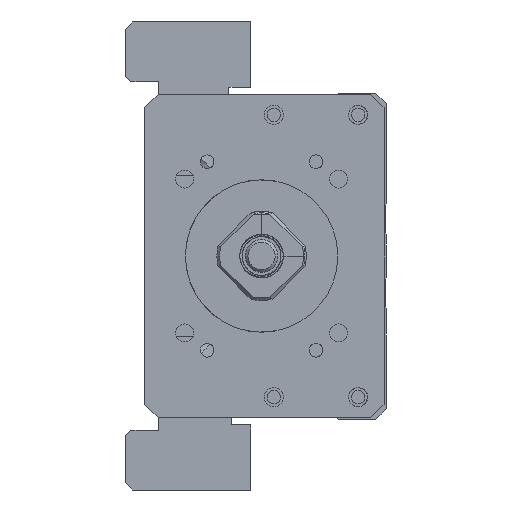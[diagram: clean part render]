
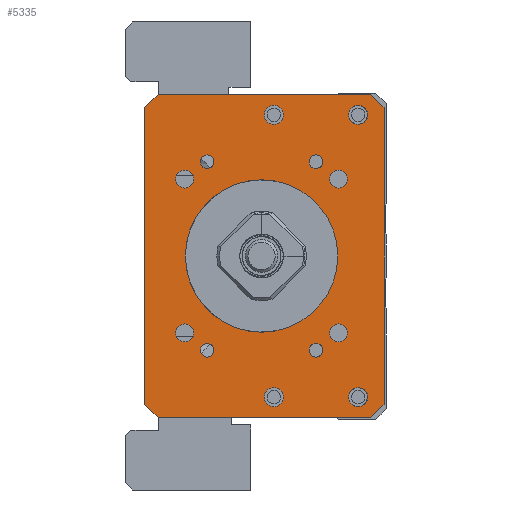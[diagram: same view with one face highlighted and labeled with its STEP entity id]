
A CAD part, left-side view. The second image highlights one B-rep face of the part: STEP entity #5335.
In plain terms, the highlighted planar face has unit normal (-1, 0, 0).
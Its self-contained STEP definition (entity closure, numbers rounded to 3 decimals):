
#4359=FACE_BOUND('',#7005,.T.);
#4360=FACE_BOUND('',#7006,.T.);
#4361=FACE_BOUND('',#7007,.T.);
#4362=FACE_BOUND('',#7008,.T.);
#4363=FACE_BOUND('',#7009,.T.);
#4364=FACE_BOUND('',#7010,.T.);
#4365=FACE_BOUND('',#7011,.T.);
#4366=FACE_BOUND('',#7012,.T.);
#4367=FACE_BOUND('',#7013,.T.);
#4368=FACE_BOUND('',#7014,.T.);
#4369=FACE_BOUND('',#7015,.T.);
#4370=FACE_BOUND('',#7016,.T.);
#4371=FACE_BOUND('',#7017,.T.);
#4372=FACE_BOUND('',#7018,.T.);
#4762=CIRCLE('',#15323,14.);
#4771=CIRCLE('',#15334,1.65);
#4772=CIRCLE('',#15335,1.65);
#4773=CIRCLE('',#15336,1.65);
#4774=CIRCLE('',#15337,1.65);
#4775=CIRCLE('',#15338,1.25);
#4776=CIRCLE('',#15339,1.75);
#4777=CIRCLE('',#15340,1.25);
#4778=CIRCLE('',#15341,1.75);
#4779=CIRCLE('',#15342,1.25);
#4780=CIRCLE('',#15343,1.75);
#4781=CIRCLE('',#15344,1.75);
#4782=CIRCLE('',#15345,1.25);
#5335=ADVANCED_FACE('',(#4359,#4360,#4361,#4362,#4363,#4364,#4365,#4366,
#4367,#4368,#4369,#4370,#4371,#4372),#5896,.F.);
#5896=PLANE('',#15346);
#7005=EDGE_LOOP('',(#9084));
#7006=EDGE_LOOP('',(#9085));
#7007=EDGE_LOOP('',(#9086));
#7008=EDGE_LOOP('',(#9087));
#7009=EDGE_LOOP('',(#9088));
#7010=EDGE_LOOP('',(#9089));
#7011=EDGE_LOOP('',(#9090));
#7012=EDGE_LOOP('',(#9091));
#7013=EDGE_LOOP('',(#9092));
#7014=EDGE_LOOP('',(#9093,#9094,#9095,#9096,#9097,#9098,#9099,#9100));
#7015=EDGE_LOOP('',(#9101));
#7016=EDGE_LOOP('',(#9102));
#7017=EDGE_LOOP('',(#9103));
#7018=EDGE_LOOP('',(#9104));
#9084=ORIENTED_EDGE('',*,*,#12309,.F.);
#9085=ORIENTED_EDGE('',*,*,#12310,.F.);
#9086=ORIENTED_EDGE('',*,*,#12311,.F.);
#9087=ORIENTED_EDGE('',*,*,#12312,.F.);
#9088=ORIENTED_EDGE('',*,*,#12313,.F.);
#9089=ORIENTED_EDGE('',*,*,#12314,.T.);
#9090=ORIENTED_EDGE('',*,*,#12315,.F.);
#9091=ORIENTED_EDGE('',*,*,#12316,.F.);
#9092=ORIENTED_EDGE('',*,*,#12317,.F.);
#9093=ORIENTED_EDGE('',*,*,#12306,.T.);
#9094=ORIENTED_EDGE('',*,*,#12318,.T.);
#9095=ORIENTED_EDGE('',*,*,#12319,.F.);
#9096=ORIENTED_EDGE('',*,*,#12320,.T.);
#9097=ORIENTED_EDGE('',*,*,#12321,.F.);
#9098=ORIENTED_EDGE('',*,*,#12322,.T.);
#9099=ORIENTED_EDGE('',*,*,#12323,.T.);
#9100=ORIENTED_EDGE('',*,*,#12324,.T.);
#9101=ORIENTED_EDGE('',*,*,#12325,.F.);
#9102=ORIENTED_EDGE('',*,*,#12326,.F.);
#9103=ORIENTED_EDGE('',*,*,#12327,.F.);
#9104=ORIENTED_EDGE('',*,*,#12286,.F.);
#11016=VERTEX_POINT('',#21295);
#11036=VERTEX_POINT('',#21355);
#11037=VERTEX_POINT('',#21357);
#11039=VERTEX_POINT('',#21363);
#11040=VERTEX_POINT('',#21365);
#11041=VERTEX_POINT('',#21367);
#11042=VERTEX_POINT('',#21369);
#11043=VERTEX_POINT('',#21371);
#11044=VERTEX_POINT('',#21373);
#11045=VERTEX_POINT('',#21375);
#11046=VERTEX_POINT('',#21377);
#11047=VERTEX_POINT('',#21379);
#11048=VERTEX_POINT('',#21381);
#11049=VERTEX_POINT('',#21383);
#11050=VERTEX_POINT('',#21385);
#11051=VERTEX_POINT('',#21387);
#11052=VERTEX_POINT('',#21389);
#11053=VERTEX_POINT('',#21391);
#11054=VERTEX_POINT('',#21394);
#11055=VERTEX_POINT('',#21396);
#11056=VERTEX_POINT('',#21398);
#12286=EDGE_CURVE('',#11016,#11016,#4762,.T.);
#12306=EDGE_CURVE('',#11037,#11036,#13552,.T.);
#12309=EDGE_CURVE('',#11039,#11039,#4771,.T.);
#12310=EDGE_CURVE('',#11040,#11040,#4772,.T.);
#12311=EDGE_CURVE('',#11041,#11041,#4773,.T.);
#12312=EDGE_CURVE('',#11042,#11042,#4774,.T.);
#12313=EDGE_CURVE('',#11043,#11043,#4775,.T.);
#12314=EDGE_CURVE('',#11044,#11044,#4776,.T.);
#12315=EDGE_CURVE('',#11045,#11045,#4777,.T.);
#12316=EDGE_CURVE('',#11046,#11046,#4778,.T.);
#12317=EDGE_CURVE('',#11047,#11047,#4779,.T.);
#12318=EDGE_CURVE('',#11036,#11048,#13554,.T.);
#12319=EDGE_CURVE('',#11049,#11048,#13555,.T.);
#12320=EDGE_CURVE('',#11049,#11050,#13556,.T.);
#12321=EDGE_CURVE('',#11051,#11050,#13557,.T.);
#12322=EDGE_CURVE('',#11051,#11052,#13558,.T.);
#12323=EDGE_CURVE('',#11052,#11053,#13559,.T.);
#12324=EDGE_CURVE('',#11053,#11037,#13560,.T.);
#12325=EDGE_CURVE('',#11054,#11054,#4780,.T.);
#12326=EDGE_CURVE('',#11055,#11055,#4781,.T.);
#12327=EDGE_CURVE('',#11056,#11056,#4782,.T.);
#13552=LINE('',#21356,#14453);
#13554=LINE('',#21380,#14455);
#13555=LINE('',#21382,#14456);
#13556=LINE('',#21384,#14457);
#13557=LINE('',#21386,#14458);
#13558=LINE('',#21388,#14459);
#13559=LINE('',#21390,#14460);
#13560=LINE('',#21392,#14461);
#14453=VECTOR('',#17532,1.);
#14455=VECTOR('',#17556,1.);
#14456=VECTOR('',#17557,1.);
#14457=VECTOR('',#17558,1.);
#14458=VECTOR('',#17559,1.);
#14459=VECTOR('',#17560,1.);
#14460=VECTOR('',#17561,1.);
#14461=VECTOR('',#17562,1.);
#15323=AXIS2_PLACEMENT_3D('',#21294,#17506,#17507);
#15334=AXIS2_PLACEMENT_3D('',#21362,#17538,#17539);
#15335=AXIS2_PLACEMENT_3D('',#21364,#17540,#17541);
#15336=AXIS2_PLACEMENT_3D('',#21366,#17542,#17543);
#15337=AXIS2_PLACEMENT_3D('',#21368,#17544,#17545);
#15338=AXIS2_PLACEMENT_3D('',#21370,#17546,#17547);
#15339=AXIS2_PLACEMENT_3D('',#21372,#17548,#17549);
#15340=AXIS2_PLACEMENT_3D('',#21374,#17550,#17551);
#15341=AXIS2_PLACEMENT_3D('',#21376,#17552,#17553);
#15342=AXIS2_PLACEMENT_3D('',#21378,#17554,#17555);
#15343=AXIS2_PLACEMENT_3D('',#21393,#17563,#17564);
#15344=AXIS2_PLACEMENT_3D('',#21395,#17565,#17566);
#15345=AXIS2_PLACEMENT_3D('',#21397,#17567,#17568);
#15346=AXIS2_PLACEMENT_3D('',#21399,#17569,#17570);
#17506=DIRECTION('',(-1.,0.,0.));
#17507=DIRECTION('',(0.,1.,0.));
#17532=DIRECTION('',(0.,0.,-1.));
#17538=DIRECTION('',(-1.,0.,0.));
#17539=DIRECTION('',(0.,0.,1.));
#17540=DIRECTION('',(-1.,0.,0.));
#17541=DIRECTION('',(0.,0.,1.));
#17542=DIRECTION('',(-1.,0.,0.));
#17543=DIRECTION('',(0.,0.,1.));
#17544=DIRECTION('',(-1.,0.,0.));
#17545=DIRECTION('',(0.,0.,1.));
#17546=DIRECTION('',(-1.,0.,0.));
#17547=DIRECTION('',(0.,1.,0.));
#17548=DIRECTION('',(1.,0.,0.));
#17549=DIRECTION('',(0.,0.,1.));
#17550=DIRECTION('',(-1.,0.,0.));
#17551=DIRECTION('',(0.,1.,0.));
#17552=DIRECTION('',(-1.,0.,0.));
#17553=DIRECTION('',(0.,0.,1.));
#17554=DIRECTION('',(-1.,0.,0.));
#17555=DIRECTION('',(0.,1.,0.));
#17556=DIRECTION('',(0.,-0.707,-0.707));
#17557=DIRECTION('',(0.,1.,0.));
#17558=DIRECTION('',(0.,-0.707,0.707));
#17559=DIRECTION('',(0.,0.,-1.));
#17560=DIRECTION('',(0.,0.707,0.707));
#17561=DIRECTION('',(0.,1.,0.));
#17562=DIRECTION('',(0.,0.707,-0.707));
#17563=DIRECTION('',(-1.,0.,0.));
#17564=DIRECTION('',(0.,0.,1.));
#17565=DIRECTION('',(-1.,0.,0.));
#17566=DIRECTION('',(0.,0.,1.));
#17567=DIRECTION('',(-1.,0.,0.));
#17568=DIRECTION('',(0.,1.,0.));
#17569=DIRECTION('',(1.,0.,0.));
#17570=DIRECTION('',(0.,1.,0.));
#21294=CARTESIAN_POINT('',(-211.,0.,-100.));
#21295=CARTESIAN_POINT('',(-211.,14.,-100.));
#21355=CARTESIAN_POINT('',(-211.,21.499,-127.25));
#21356=CARTESIAN_POINT('',(-211.,21.499,-70.25));
#21357=CARTESIAN_POINT('',(-211.,21.499,-72.75));
#21362=CARTESIAN_POINT('',(-211.,14.142,-85.858));
#21363=CARTESIAN_POINT('',(-211.,14.142,-84.208));
#21364=CARTESIAN_POINT('',(-211.,-14.142,-85.858));
#21365=CARTESIAN_POINT('',(-211.,-14.142,-84.208));
#21366=CARTESIAN_POINT('',(-211.,14.142,-114.142));
#21367=CARTESIAN_POINT('',(-211.,14.142,-112.492));
#21368=CARTESIAN_POINT('',(-211.,-14.142,-114.142));
#21369=CARTESIAN_POINT('',(-211.,-14.142,-112.492));
#21370=CARTESIAN_POINT('',(-211.,-10.,-117.321));
#21371=CARTESIAN_POINT('',(-211.,-8.75,-117.321));
#21372=CARTESIAN_POINT('',(-211.,-2.25,-125.936));
#21373=CARTESIAN_POINT('',(-211.,-2.25,-124.186));
#21374=CARTESIAN_POINT('',(-211.,10.,-82.679));
#21375=CARTESIAN_POINT('',(-211.,11.25,-82.679));
#21376=CARTESIAN_POINT('',(-211.,-2.25,-74.064));
#21377=CARTESIAN_POINT('',(-211.,-2.25,-72.314));
#21378=CARTESIAN_POINT('',(-211.,10.,-117.321));
#21379=CARTESIAN_POINT('',(-211.,11.25,-117.321));
#21380=CARTESIAN_POINT('',(-211.,18.999,-129.75));
#21381=CARTESIAN_POINT('',(-211.,18.999,-129.75));
#21382=CARTESIAN_POINT('',(-211.,-22.501,-129.75));
#21383=CARTESIAN_POINT('',(-211.,-20.001,-129.75));
#21384=CARTESIAN_POINT('',(-211.,-22.501,-127.25));
#21385=CARTESIAN_POINT('',(-211.,-22.501,-127.25));
#21386=CARTESIAN_POINT('',(-211.,-22.501,-70.25));
#21387=CARTESIAN_POINT('',(-211.,-22.501,-72.75));
#21388=CARTESIAN_POINT('',(-211.,-22.501,-72.75));
#21389=CARTESIAN_POINT('',(-211.,-20.001,-70.25));
#21390=CARTESIAN_POINT('',(-211.,-22.501,-70.25));
#21391=CARTESIAN_POINT('',(-211.,18.999,-70.25));
#21392=CARTESIAN_POINT('',(-211.,18.999,-70.25));
#21393=CARTESIAN_POINT('',(-211.,-17.75,-74.064));
#21394=CARTESIAN_POINT('',(-211.,-17.75,-72.314));
#21395=CARTESIAN_POINT('',(-211.,-17.75,-125.936));
#21396=CARTESIAN_POINT('',(-211.,-17.75,-124.186));
#21397=CARTESIAN_POINT('',(-211.,-10.,-82.679));
#21398=CARTESIAN_POINT('',(-211.,-8.75,-82.679));
#21399=CARTESIAN_POINT('',(-211.,-22.501,-70.25));
